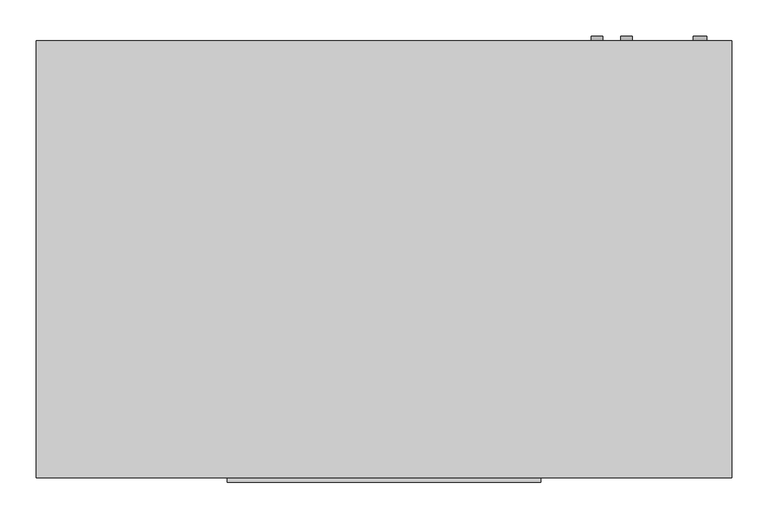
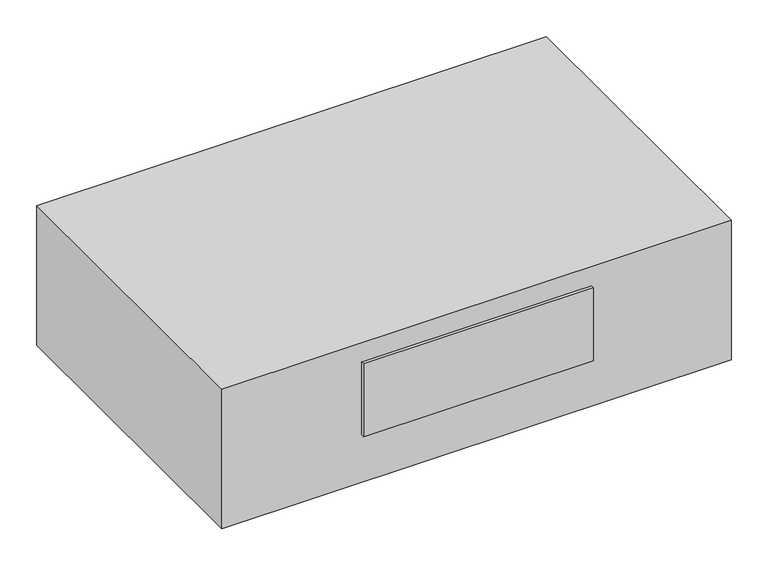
"""IFC4 building model written with IfcOpenShell, lengths in millimetres: proxy geometry, Exposed_Horizontal_Fan_Coil_Unit_-_42CGB_-_CARRIER_-_2-Pipe_Cool-EHeat_FS-BR_RH_2022 : Size 02 - 277v/60Hz/1Ph - 4 Row 2.0kW."""

from ifc_helpers import new_model, si_unit, point, frame, frame_2d, origin, place, context, project, spatial, polyline, circle_curve, trimmed, segment, composite_curve, outline, extrude, source, transform, mapped, element, save


def mechanical_equipment_5ee57af4(model_context):
    return source(origin(), model_context, "Body", "SweptSolid", [
        extrude(outline(composite_curve([segment(trimmed(circle_curve(frame_2d((-60.325, 447.675)), 7.9375), [point((-60.325, 455.6125))], [point((-60.325, 439.7375))], False, "CARTESIAN"), True, "CONTINUOUS"), segment(trimmed(circle_curve(frame_2d((-60.325, 447.675)), 7.9375), [point((-60.325, 439.7375))], [point((-60.325, 455.6125))], False, "CARTESIAN"), True, "CONTINUOUS")], self_intersect=False)), frame((0.0, 65.0875, 0.0), z_axis=(0.0, 1.0, 0.0), x_axis=(0.0, 0.0, 1.0)), (0.0, 0.0, 1.0), 6.35),
        extrude(outline(composite_curve([segment(trimmed(circle_curve(frame_2d((-95.25, 488.95)), 7.9375), [point((-95.25, 496.8875))], [point((-95.25, 481.0125))], False, "CARTESIAN"), True, "CONTINUOUS"), segment(trimmed(circle_curve(frame_2d((-95.25, 488.95)), 7.9375), [point((-95.25, 481.0125))], [point((-95.25, 496.8875))], False, "CARTESIAN"), True, "CONTINUOUS")], self_intersect=False)), frame((0.0, 65.0875, 0.0), z_axis=(0.0, 1.0, 0.0), x_axis=(0.0, 0.0, 1.0)), (0.0, 0.0, 1.0), 6.35),
        extrude(outline(composite_curve([segment(trimmed(circle_curve(frame_2d((-260.35, 590.55)), 9.525), [point((-260.35, 600.075))], [point((-260.35, 581.025))], False, "CARTESIAN"), True, "CONTINUOUS"), segment(trimmed(circle_curve(frame_2d((-260.35, 590.55)), 9.525), [point((-260.35, 581.025))], [point((-260.35, 600.075))], False, "CARTESIAN"), True, "CONTINUOUS")], self_intersect=False)), frame((0.0, 65.0875, 0.0), z_axis=(0.0, 1.0, 0.0), x_axis=(0.0, 0.0, 1.0)), (0.0, 0.0, 1.0), 6.35),
        extrude(outline(polyline([(-330.2, 65.0875), (635.0, 65.0875), (635.0, -541.3375), (-330.2, -541.3375), (-330.2, 65.0875)])), frame((0.0, 0.0, -279.4), z_axis=(0.0, 0.0, 1.0), x_axis=(1.0, 0.0, 0.0)), (0.0, 0.0, 1.0), 279.4),
        extrude(outline(polyline([(369.8875, -547.6875), (-65.0875, -547.6875), (-65.0875, -541.3375), (369.8875, -541.3375), (369.8875, -547.6875)])), frame((0.0, 0.0, -184.15), z_axis=(0.0, 0.0, 1.0), x_axis=(1.0, 0.0, 0.0)), (0.0, 0.0, 1.0), 146.05),
        extrude(outline(polyline([(450.85, -11.1125), (450.85, -265.1125), (-146.05, -265.1125), (-146.05, -11.1125), (450.85, -11.1125)])), frame((0.0, 0.0, -285.75), z_axis=(0.0, 0.0, 1.0), x_axis=(1.0, 0.0, 0.0)), (0.0, 0.0, 1.0), 6.35),
    ])


if __name__ == "__main__":
    model = new_model("IFC4")
    model_context = context("Model", 3, world=origin())
    ifc_project = project(units=[si_unit("LENGTHUNIT", "METRE", prefix="MILLI")], contexts=[model_context])
    site = spatial("IfcSite", under=ifc_project)
    building = spatial("IfcBuilding", under=site)
    placement = place(None, origin())
    mechanical_equipment_shape = mechanical_equipment_5ee57af4(model_context)
    element("IfcBuildingElementProxy", 1, Name="Exposed_Horizontal_Fan_Coil_Unit_-_42CGB_-_CARRIER_-_2-Pipe_Cool-EHeat_FS-BR_RH_2022 : Size 02 - 277v/60Hz/1Ph - 4 Row 2.0kW", ObjectType="Exposed_Horizontal_Fan_Coil_Unit_-_42CGB_-_CARRIER_-_2-Pipe_Cool-EHeat_FS-BR_RH_2022 : Size 02 - 277v/60Hz/1Ph - 4 Row 2.0kW", at=placement, inside=building, context=model_context, shape_type="MappedRepresentation", body=[
        mapped(mechanical_equipment_shape, transform((0.0, 0.0, 0.0), x_axis=(1.0, 0.0, 0.0), y_axis=(0.0, 1.0, 0.0), z_axis=(0.0, 0.0, 1.0))),
    ])
    save(model, "model.ifc")
